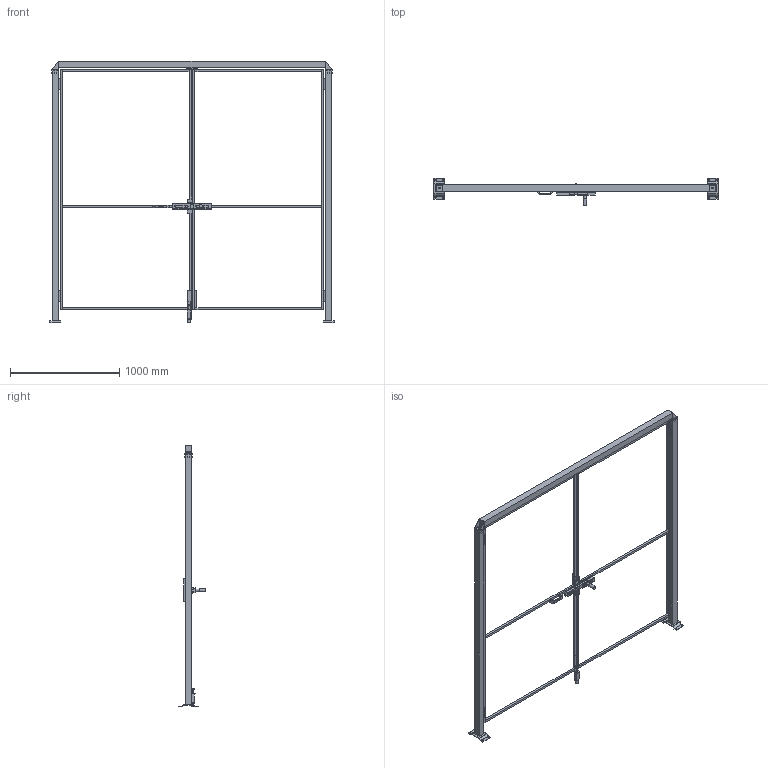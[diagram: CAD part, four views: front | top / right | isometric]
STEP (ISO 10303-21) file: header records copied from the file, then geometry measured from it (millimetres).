
FILE_DESCRIPTION(/* description */ (''),/* implementation_level */ '2;1');
FILE_NAME(/* name */ 'C:\SafeGuarding\ELABORATI\VZOR§DVOUKŘÍDLÉ_2025-02-03-10-04-57.stp',/* time_stamp */ '2025-02-03T10:05:02+01:00',/* author */ ('admin'),/* organization */ (''),/* preprocessor_version */ 'ST-DEVELOPER v18.1',/* originating_system */ 'AutoCAD Mechanical',/* authorisation */ '');
FILE_SCHEMA (('AUTOMOTIVE_DESIGN { 1 0 10303 214 3 1 1 }'));
Length unit declared in the file: millimetre
Products named in the file (5): Product; *U6; DATI_PORTA; P_VFMA.ME60SDU.2320; R_VFPA.REPE20.12002200
Assembly tree (6 placements, depth 2):
  Product
    R_VFPA.REPE20.12002200  x2
    P_VFMA.ME60SDU.2320  x2
    *U6
    DATI_PORTA
Bounding box: 2605 x 255.82 x 2400.5 mm (x, y, z)
Volume: 32899034.6 mm3; surface area: 3548567.4 mm2
Topology: 35 solids, 46 shells, 428 faces, 1394 edges, 1362 vertices
Faces by surface type: plane 384, cylinder 42, cone 2
Full cylindrical faces by diameter (mm): 11 x25, 12 x1, 14 x2, 24 x1, 30 x1
Entity records: 12228 total; most frequent: CARTESIAN_POINT 2574, DIRECTION 1847, ORIENTED_EDGE 1748, EDGE_CURVE 923, LINE 869, VECTOR 869, VERTEX_POINT 651, AXIS2_PLACEMENT_3D 489
